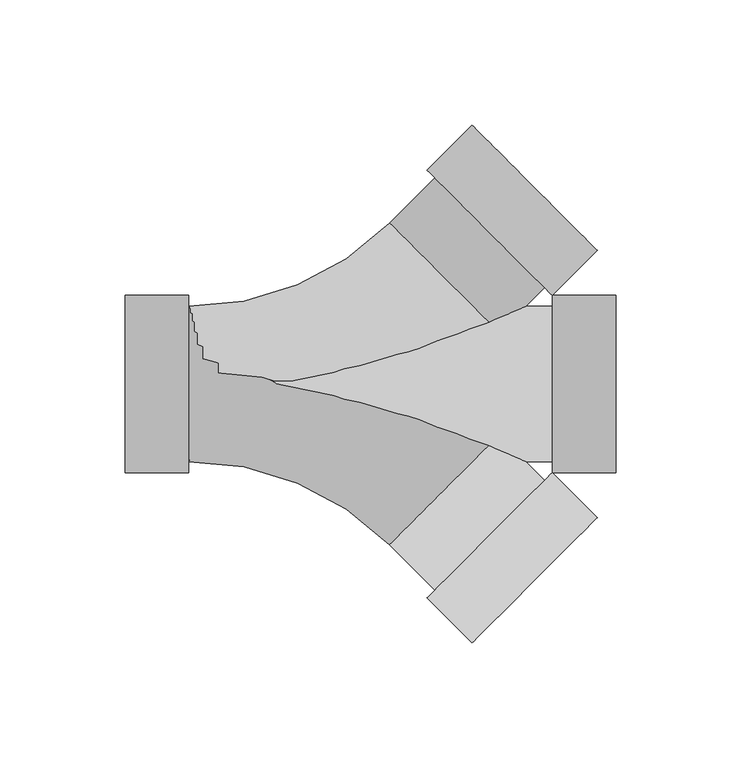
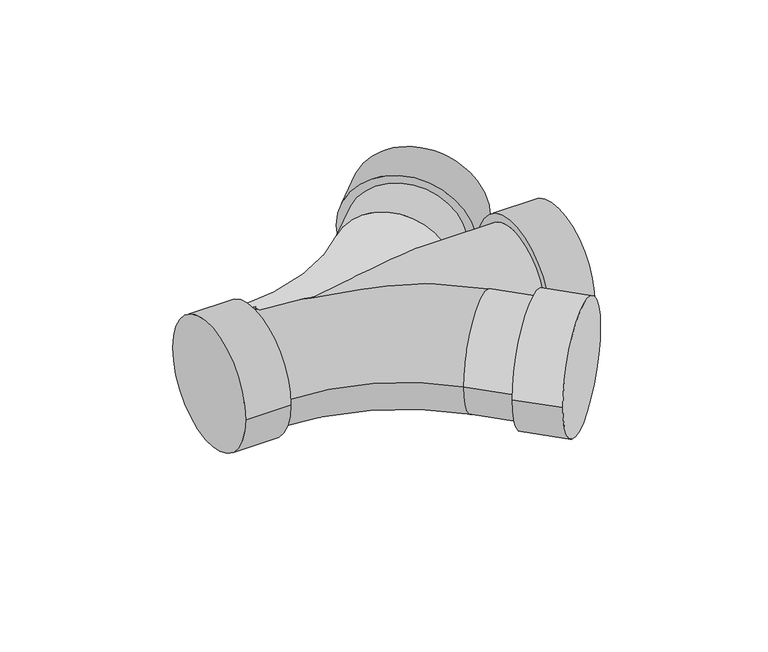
"""IFC4 building model written with IfcOpenShell, lengths in millimetres: pipe fitting geometry, M_Sanitario con te doble con reducción - PVC - Serie 40 - DWV : Estándar."""

from ifc_helpers import new_model, si_unit, point, frame, origin, place, context, project, spatial, circle_curve, ellipse_curve, trimmed, source, transform, mapped, element, save
from ifc_brep_helpers import plane_surface, cylinder_surface, revolved_surface, advanced_brep


def pipe_fitting_a666eca6(model_context):
    return source(origin(), model_context, "Body", "AdvancedBrep", [
        advanced_brep(
        [(103.4698065, -53.3796216, 0.0), (53.3796216, -103.4698065, 0.0), (85.5092942, -35.4191094, 0.0), (35.4191094, -85.5092942, 0.0), (82.3704141, -38.5579895, 0.0), (38.5579895, -82.3704141, 0.0), (64.2986338, -20.4862093, 0.0), (20.4862093, -64.2986338, 0.0), (-59.9519375, -30.9800625, 0.0), (-59.9519375, 30.9800625, 0.0)],
        [
            (0, 1, circle_curve(frame((78.424714, -78.424714, 0.0), z_axis=(0.7071067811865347, -0.7071067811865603, 0.0), x_axis=(-0.7071067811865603, -0.7071067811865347, 0.0)), 35.4191094)),
            (1, 0, circle_curve(frame((78.424714, -78.424714, 0.0), z_axis=(0.7071067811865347, -0.7071067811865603, 0.0), x_axis=(-0.7071067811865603, -0.7071067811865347, 0.0)), 35.4191094)),
            (2, 3, circle_curve(frame((60.4642018, -60.4642018, 0.0), z_axis=(-0.7071067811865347, 0.7071067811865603, 0.0), x_axis=(-0.7071067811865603, -0.7071067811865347, 0.0)), 35.4191094)),
            (3, 2, circle_curve(frame((60.4642018, -60.4642018, 0.0), z_axis=(-0.7071067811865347, 0.7071067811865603, 0.0), x_axis=(-0.7071067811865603, -0.7071067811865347, 0.0)), 35.4191094)),
            (4, 5, circle_curve(frame((60.4642018, -60.4642018, 0.0), z_axis=(0.7071067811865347, -0.7071067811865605, 0.0), x_axis=(-0.7071067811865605, -0.7071067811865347, 0.0)), 30.9800625)),
            (5, 4, circle_curve(frame((60.4642018, -60.4642018, 0.0), z_axis=(0.7071067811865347, -0.7071067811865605, 0.0), x_axis=(-0.7071067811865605, -0.7071067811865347, 0.0)), 30.9800625)),
            (0, 2),
            (3, 1),
            (4, 6),
            (6, 7, circle_curve(frame((42.3924216, -42.3924216, 0.0), z_axis=(0.7071067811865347, -0.7071067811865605, 0.0), x_axis=(-0.7071067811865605, -0.7071067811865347, 0.0)), 30.9800625)),
            (7, 5),
            (7, 6, circle_curve(frame((42.3924216, -42.3924216, 0.0), z_axis=(0.7071067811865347, -0.7071067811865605, 0.0), x_axis=(-0.7071067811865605, -0.7071067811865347, 0.0)), 30.9800625)),
            (8, 9, circle_curve(frame((-59.9519375, 0.0, 0.0), z_axis=(-1.0, 0.0, 0.0), x_axis=(0.0, 1.0, 0.0)), 30.9800625)),
            (9, 8, circle_curve(frame((-59.9519375, 0.0, 0.0), z_axis=(-1.0, 0.0, 0.0), x_axis=(0.0, 1.0, 0.0)), 30.9800625)),
            (8, 7, circle_curve(frame((-59.9519375, -144.7367806, 0.0), z_axis=(0.0, 0.0, -1.0), x_axis=(0.0, 1.0, 0.0)), 113.7567181)),
            (6, 9, circle_curve(frame((-59.9519375, -144.7367806, 0.0), z_axis=(0.0, 0.0, 1.0), x_axis=(0.0, 1.0, 0.0)), 175.7168431)),
        ],
        [
            plane_surface(frame((78.424714, -78.424714, 0.0), z_axis=(0.7071067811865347, -0.7071067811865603, 0.0), x_axis=(0.0, 0.0, 1.0))),
            plane_surface(frame((60.4642018, -60.4642018, 0.0), z_axis=(-0.7071067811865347, 0.7071067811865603, 0.0), x_axis=(0.0, 0.0, 1.0))),
            cylinder_surface(frame((78.424714, -78.424714, 0.0), z_axis=(0.7071067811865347, -0.7071067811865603, 0.0), x_axis=(-0.7071067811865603, -0.7071067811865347, 0.0)), 35.4191094),
            cylinder_surface(frame((78.424714, -78.424714, 0.0), z_axis=(0.7071067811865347, -0.7071067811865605, 0.0), x_axis=(-0.7071067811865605, -0.7071067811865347, 0.0)), 30.9800625),
            plane_surface(frame((-59.9519375, 0.0, 0.0), z_axis=(-1.0, 0.0, 0.0), x_axis=(0.0, 0.0, 1.0))),
            revolved_surface(trimmed(ellipse_curve(frame((-59.9519375, 0.0, 0.0), z_axis=(-1.0, 0.0, 0.0), x_axis=(0.0, 1.0, 0.0)), 30.9800625, 30.9800625), [point((-59.9519375, -30.9800625, 0.0))], [point((-59.9519375, 30.9800625, 0.0))], True, "CARTESIAN"), (-59.9519375, -144.7367806, 0.0), (0.0, 0.0, -1.0)),
            revolved_surface(trimmed(ellipse_curve(frame((-59.9519375, 0.0, 0.0), z_axis=(-1.0, 0.0, 0.0), x_axis=(0.0, 1.0, 0.0)), 30.9800625, 30.9800625), [point((-59.9519375, 30.9800625, 0.0))], [point((-59.9519375, -30.9800625, 0.0))], True, "CARTESIAN"), (-59.9519375, -144.7367806, 0.0), (0.0, 0.0, -1.0)),
        ],
        [
            (0, [[1, 2]]),
            (1, [[3, 4], [5, 6]]),
            (2, [[-1, 7, -4, 8]]),
            (2, [[-2, -8, -3, -7]]),
            (3, [[9, 10, 11, -5]]),
            (3, [[-9, -6, -11, 12]]),
            (4, [[13, 14]]),
            (5, [[-13, 15, -10, 16]]),
            (6, [[-14, -16, -12, -15]]),
        ],
    ),
        advanced_brep(
        [(-59.9519375, -30.9800625, 0.0), (-59.9519375, 30.9800625, 0.0), (64.2986338, 20.4862093, 0.0), (42.3924216, 42.3924216, 30.9800625), (20.4862093, 64.2986338, 0.0), (42.3924216, 42.3924216, -30.9800625), (53.3796216, 103.4698065, 0.0), (103.4698065, 53.3796216, 0.0), (82.3704141, 38.5579895, 0.0), (38.5579895, 82.3704141, 0.0), (35.4191094, 85.5092942, 0.0), (85.5092942, 35.4191094, 0.0)],
        [
            (0, 1, circle_curve(frame((-59.9519375, 0.0, 0.0), z_axis=(-1.0, 0.0, 0.0), x_axis=(0.0, 1.0, 0.0)), 30.9800625)),
            (1, 0, circle_curve(frame((-59.9519375, 0.0, 0.0), z_axis=(-1.0, 0.0, 0.0), x_axis=(0.0, 1.0, 0.0)), 30.9800625)),
            (0, 2, circle_curve(frame((-59.9519375, 144.7367806, 0.0), z_axis=(0.0, 0.0, 1.0), x_axis=(0.0, -1.0, 0.0)), 175.7168431)),
            (2, 3, circle_curve(frame((42.3924216, 42.3924216, 0.0), z_axis=(-0.7071067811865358, -0.7071067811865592, 0.0), x_axis=(-0.7071067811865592, 0.7071067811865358, 0.0)), 30.9800625)),
            (3, 4, circle_curve(frame((42.3924216, 42.3924216, 0.0), z_axis=(-0.7071067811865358, -0.7071067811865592, 0.0), x_axis=(-0.7071067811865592, 0.7071067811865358, 0.0)), 30.9800625)),
            (4, 1, circle_curve(frame((-59.9519375, 144.7367806, 0.0), z_axis=(0.0, 0.0, -1.0), x_axis=(0.0, -1.0, 0.0)), 113.7567181)),
            (4, 5, circle_curve(frame((42.3924216, 42.3924216, 0.0), z_axis=(-0.7071067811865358, -0.7071067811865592, 0.0), x_axis=(-0.7071067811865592, 0.7071067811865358, 0.0)), 30.9800625)),
            (5, 2, circle_curve(frame((42.3924216, 42.3924216, 0.0), z_axis=(-0.7071067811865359, -0.7071067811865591, 0.0), x_axis=(-0.7071067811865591, 0.7071067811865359, 0.0)), 30.9800625)),
            (6, 7, circle_curve(frame((78.424714, 78.424714, 0.0), z_axis=(0.707106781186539, 0.707106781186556, 0.0), x_axis=(0.707106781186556, -0.707106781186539, 0.0)), 35.4191094)),
            (7, 6, circle_curve(frame((78.424714, 78.424714, 0.0), z_axis=(0.707106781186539, 0.707106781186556, 0.0), x_axis=(0.707106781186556, -0.707106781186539, 0.0)), 35.4191094)),
            (2, 8),
            (8, 9, circle_curve(frame((60.4642018, 60.4642018, 0.0), z_axis=(-0.7071067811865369, -0.7071067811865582, 0.0), x_axis=(-0.7071067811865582, 0.7071067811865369, 0.0)), 30.9800625)),
            (9, 4),
            (9, 8, circle_curve(frame((60.4642018, 60.4642018, 0.0), z_axis=(-0.7071067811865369, -0.7071067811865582, 0.0), x_axis=(-0.7071067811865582, 0.7071067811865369, 0.0)), 30.9800625)),
            (10, 11, circle_curve(frame((60.4642018, 60.4642018, 0.0), z_axis=(-0.707106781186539, -0.707106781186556, 0.0), x_axis=(0.707106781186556, -0.707106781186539, 0.0)), 35.4191094)),
            (11, 10, circle_curve(frame((60.4642018, 60.4642018, 0.0), z_axis=(-0.707106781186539, -0.707106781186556, 0.0), x_axis=(0.707106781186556, -0.707106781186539, 0.0)), 35.4191094)),
            (6, 10),
            (11, 7),
        ],
        [
            plane_surface(frame((-59.9519375, 0.0, 0.0), z_axis=(-1.0, 0.0, 0.0), x_axis=(0.0, 0.0, 1.0))),
            revolved_surface(trimmed(ellipse_curve(frame((-59.9519375, 0.0, 0.0), z_axis=(-1.0, 0.0, 0.0), x_axis=(0.0, 1.0, 0.0)), 30.9800625, 30.9800625), [point((-59.9519375, -30.9800625, 0.0))], [point((-59.9519375, 30.9800625, 0.0))], True, "CARTESIAN"), (-59.9519375, 144.7367806, 0.0), (0.0, 0.0, 1.0)),
            revolved_surface(trimmed(ellipse_curve(frame((-59.9519375, 0.0, 0.0), z_axis=(-1.0, 0.0, 0.0), x_axis=(0.0, 1.0, 0.0)), 30.9800625, 30.9800625), [point((-59.9519375, 30.9800625, 0.0))], [point((-59.9519375, -30.9800625, 0.0))], True, "CARTESIAN"), (-59.9519375, 144.7367806, 0.0), (0.0, 0.0, 1.0)),
            plane_surface(frame((78.424714, 78.424714, 0.0), z_axis=(0.7071067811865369, 0.7071067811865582, 0.0), x_axis=(0.0, 0.0, 1.0))),
            cylinder_surface(frame((42.3924216, 42.3924216, 0.0), z_axis=(-0.7071067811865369, -0.7071067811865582, 0.0), x_axis=(-0.7071067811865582, 0.7071067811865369, 0.0)), 30.9800625),
            plane_surface(frame((60.4642018, 60.4642018, 0.0), z_axis=(-0.707106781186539, -0.707106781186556, 0.0), x_axis=(0.0, 0.0, 1.0))),
            cylinder_surface(frame((78.424714, 78.424714, 0.0), z_axis=(0.707106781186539, 0.707106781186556, 0.0), x_axis=(0.707106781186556, -0.707106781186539, 0.0)), 35.4191094),
        ],
        [
            (0, [[1, 2]]),
            (1, [[-1, 3, 4, 5, 6]]),
            (2, [[-2, -6, 7, 8, -3]]),
            (3, [[9, 10]]),
            (4, [[-4, 11, 12, 13, -5]]),
            (4, [[-8, -7, -13, 14, -11]]),
            (5, [[15, 16], [-12, -14]]),
            (6, [[-9, 17, -16, 18]]),
            (6, [[-10, -18, -15, -17]]),
        ],
    ),
        advanced_brep(
        [(-85.3519375, -35.4191094, 0.0), (-85.3519375, 35.4191094, 0.0), (-59.9519375, -35.4191094, 0.0), (-59.9519375, 35.4191094, 0.0), (-59.9519375, 30.9800625, 0.0), (-59.9519375, -30.9800625, 0.0), (85.5092942, 30.9800625, 0.0), (85.5092942, -30.9800625, 0.0), (85.5092942, -35.4191094, 0.0), (85.5092942, 35.4191094, 0.0), (110.9092942, -35.4191094, 0.0), (110.9092942, 35.4191094, 0.0)],
        [
            (0, 1, circle_curve(frame((-85.3519375, 0.0, 0.0), z_axis=(-1.0, 0.0, 0.0), x_axis=(0.0, 1.0, 0.0)), 35.4191094)),
            (1, 0, circle_curve(frame((-85.3519375, 0.0, 0.0), z_axis=(-1.0, 0.0, 0.0), x_axis=(0.0, 1.0, 0.0)), 35.4191094)),
            (2, 3, circle_curve(frame((-59.9519375, 0.0, 0.0), z_axis=(1.0, 0.0, 0.0), x_axis=(0.0, 1.0, 0.0)), 35.4191094)),
            (3, 2, circle_curve(frame((-59.9519375, 0.0, 0.0), z_axis=(1.0, 0.0, 0.0), x_axis=(0.0, 1.0, 0.0)), 35.4191094)),
            (4, 5, circle_curve(frame((-59.9519375, 0.0, 0.0), z_axis=(-1.0, 0.0, 0.0), x_axis=(0.0, 0.0, -1.0)), 30.9800625)),
            (5, 4, circle_curve(frame((-59.9519375, 0.0, 0.0), z_axis=(-1.0, 0.0, 0.0), x_axis=(0.0, 0.0, 1.0)), 30.9800625)),
            (0, 2),
            (3, 1),
            (4, 6),
            (6, 7, circle_curve(frame((85.5092942, 0.0, 0.0), z_axis=(-1.0, 0.0, 0.0), x_axis=(0.0, 0.0, -1.0)), 30.9800625)),
            (7, 5),
            (7, 6, circle_curve(frame((85.5092942, 0.0, 0.0), z_axis=(-1.0, 0.0, 0.0), x_axis=(0.0, 0.0, 1.0)), 30.9800625)),
            (8, 9, circle_curve(frame((85.5092942, 0.0, 0.0), z_axis=(-1.0, 0.0, 0.0), x_axis=(0.0, 1.0, 0.0)), 35.4191094)),
            (9, 8, circle_curve(frame((85.5092942, 0.0, 0.0), z_axis=(-1.0, 0.0, 0.0), x_axis=(0.0, 1.0, 0.0)), 35.4191094)),
            (10, 11, circle_curve(frame((110.9092942, 0.0, 0.0), z_axis=(1.0, 0.0, 0.0), x_axis=(0.0, 1.0, 0.0)), 35.4191094)),
            (11, 10, circle_curve(frame((110.9092942, 0.0, 0.0), z_axis=(1.0, 0.0, 0.0), x_axis=(0.0, 1.0, 0.0)), 35.4191094)),
            (8, 10),
            (11, 9),
        ],
        [
            plane_surface(frame((-85.3519375, 0.0, 0.0), z_axis=(-1.0, 0.0, 0.0), x_axis=(0.0, 0.0, 1.0))),
            plane_surface(frame((-59.9519375, 0.0, 0.0), z_axis=(1.0, 0.0, 0.0), x_axis=(0.0, 0.0, 1.0))),
            cylinder_surface(frame((-85.3519375, 0.0, 0.0), z_axis=(-1.0, 0.0, 0.0), x_axis=(0.0, 1.0, 0.0)), 35.4191094),
            cylinder_surface(frame((-59.9519375, 0.0, 0.0), z_axis=(1.0, 0.0, 0.0), x_axis=(0.0, 0.0, -1.0)), 30.9800625),
            cylinder_surface(frame((-59.9519375, 0.0, 0.0), z_axis=(1.0, 0.0, 0.0), x_axis=(0.0, 0.0, 1.0)), 30.9800625),
            plane_surface(frame((85.5092942, 0.0, 0.0), z_axis=(-1.0, 0.0, 0.0), x_axis=(0.0, 0.0, 1.0))),
            plane_surface(frame((110.9092942, 0.0, 0.0), z_axis=(1.0, 0.0, 0.0), x_axis=(0.0, 0.0, 1.0))),
            cylinder_surface(frame((85.5092942, 0.0, 0.0), z_axis=(-1.0, 0.0, 0.0), x_axis=(0.0, 1.0, 0.0)), 35.4191094),
        ],
        [
            (0, [[1, 2]]),
            (1, [[3, 4], [5, 6]]),
            (2, [[-1, 7, -4, 8]]),
            (2, [[-2, -8, -3, -7]]),
            (3, [[9, 10, 11, -5]]),
            (4, [[-9, -6, -11, 12]]),
            (5, [[13, 14], [-10, -12]]),
            (6, [[15, 16]]),
            (7, [[-13, 17, -16, 18]]),
            (7, [[-14, -18, -15, -17]]),
        ],
    ),
    ])


if __name__ == "__main__":
    model = new_model("IFC4")
    model_context = context("Model", 3, world=origin())
    ifc_project = project(units=[si_unit("LENGTHUNIT", "METRE", prefix="MILLI")], contexts=[model_context])
    site = spatial("IfcSite", under=ifc_project)
    building = spatial("IfcBuilding", under=site)
    placement = place(None, origin())
    pipe_fitting_shape = pipe_fitting_a666eca6(model_context)
    element("IfcPipeFitting", 1, ObjectType="M_Sanitario con te doble con reducción - PVC - Serie 40 - DWV : Estándar", at=placement, inside=building, context=model_context, shape_type="MappedRepresentation", body=[
        mapped(pipe_fitting_shape, transform((0.0, 0.0, 0.0), x_axis=(1.0, 0.0, 0.0), y_axis=(0.0, 1.0, 0.0), z_axis=(0.0, 0.0, 1.0))),
    ])
    save(model, "model.ifc")
